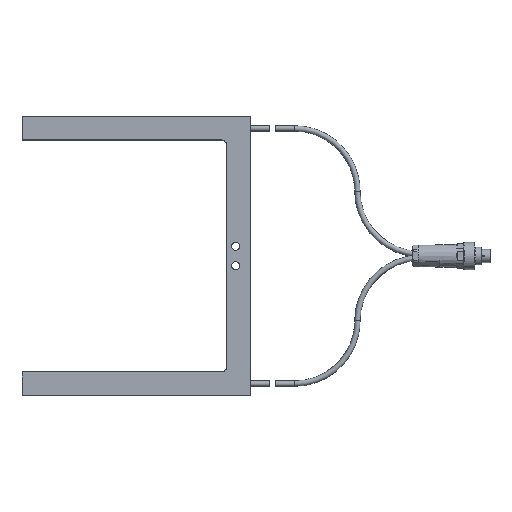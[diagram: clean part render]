
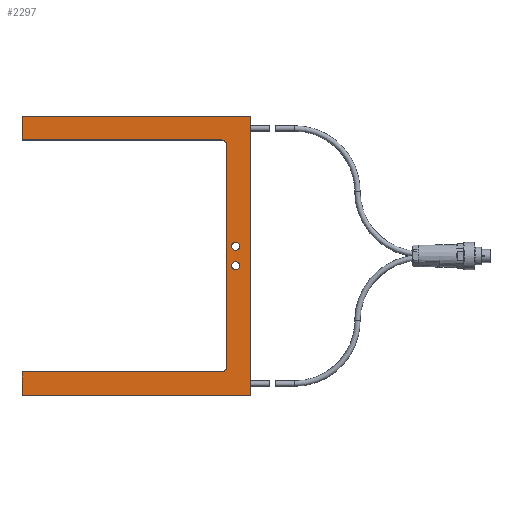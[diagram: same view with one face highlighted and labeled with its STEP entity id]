
A CAD part, top view. The second image highlights one B-rep face of the part: STEP entity #2297.
In plain terms, the highlighted planar face has unit normal (0, 0, 1).
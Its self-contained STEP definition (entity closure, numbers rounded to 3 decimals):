
#116=LINE($,#4063,#204);
#120=LINE($,#4075,#208);
#121=LINE($,#4079,#209);
#125=LINE($,#4087,#213);
#128=LINE($,#4093,#216);
#131=LINE($,#4098,#219);
#133=LINE($,#4102,#221);
#136=LINE($,#4107,#224);
#204=VECTOR($,#3263,114.);
#208=VECTOR($,#3275,103.);
#209=VECTOR($,#3278,118.);
#213=VECTOR($,#3284,144.);
#216=VECTOR($,#3289,103.);
#219=VECTOR($,#3294,12.);
#221=VECTOR($,#3298,12.);
#224=VECTOR($,#3303,118.);
#307=PLANE($,#2610);
#411=FACE_BOUND($,#801,.T.);
#412=FACE_BOUND($,#802,.T.);
#413=FACE_BOUND($,#803,.T.);
#801=EDGE_LOOP($,(#1911));
#802=EDGE_LOOP($,(#1912));
#803=EDGE_LOOP($,(#1913,#1914,#1915,#1916,#1917,#1918,#1919,#1920,#1921,
#1922));
#943=CIRCLE($,#2590,2.05);
#945=CIRCLE($,#2593,2.05);
#948=CIRCLE($,#2597,3.);
#950=CIRCLE($,#2601,3.);
#1123=VERTEX_POINT($,#4040);
#1125=VERTEX_POINT($,#4045);
#1129=VERTEX_POINT($,#4053);
#1130=VERTEX_POINT($,#4055);
#1132=VERTEX_POINT($,#4061);
#1134=VERTEX_POINT($,#4067);
#1136=VERTEX_POINT($,#4073);
#1137=VERTEX_POINT($,#4077);
#1138=VERTEX_POINT($,#4078);
#1141=VERTEX_POINT($,#4086);
#1143=VERTEX_POINT($,#4092);
#1145=VERTEX_POINT($,#4101);
#1369=EDGE_CURVE($,#1123,#1123,#943,.T.);
#1371=EDGE_CURVE($,#1125,#1125,#945,.T.);
#1375=EDGE_CURVE($,#1129,#1130,#948,.T.);
#1379=EDGE_CURVE($,#1132,#1129,#116,.T.);
#1382=EDGE_CURVE($,#1134,#1132,#950,.T.);
#1385=EDGE_CURVE($,#1136,#1134,#120,.T.);
#1386=EDGE_CURVE($,#1137,#1138,#121,.T.);
#1390=EDGE_CURVE($,#1138,#1141,#125,.T.);
#1393=EDGE_CURVE($,#1130,#1143,#128,.T.);
#1396=EDGE_CURVE($,#1143,#1137,#131,.T.);
#1398=EDGE_CURVE($,#1145,#1136,#133,.T.);
#1401=EDGE_CURVE($,#1141,#1145,#136,.T.);
#1911=ORIENTED_EDGE($,*,*,#1371,.T.);
#1912=ORIENTED_EDGE($,*,*,#1369,.T.);
#1913=ORIENTED_EDGE($,*,*,#1398,.F.);
#1914=ORIENTED_EDGE($,*,*,#1401,.F.);
#1915=ORIENTED_EDGE($,*,*,#1390,.F.);
#1916=ORIENTED_EDGE($,*,*,#1386,.F.);
#1917=ORIENTED_EDGE($,*,*,#1396,.F.);
#1918=ORIENTED_EDGE($,*,*,#1393,.F.);
#1919=ORIENTED_EDGE($,*,*,#1375,.F.);
#1920=ORIENTED_EDGE($,*,*,#1379,.F.);
#1921=ORIENTED_EDGE($,*,*,#1382,.F.);
#1922=ORIENTED_EDGE($,*,*,#1385,.F.);
#2297=ADVANCED_FACE($,(#411,#412,#413),#307,.T.);
#2590=AXIS2_PLACEMENT_3D($,#4041,#3241,#3242);
#2593=AXIS2_PLACEMENT_3D($,#4046,#3247,#3248);
#2597=AXIS2_PLACEMENT_3D($,#4056,#3256,#3257);
#2601=AXIS2_PLACEMENT_3D($,#4069,#3269,#3270);
#2610=AXIS2_PLACEMENT_3D($,#4110,#3307,#3308);
#3241=DIRECTION('center_axis',(0.,0.,-1.));
#3242=DIRECTION('ref_axis',(1.,0.,0.));
#3247=DIRECTION('center_axis',(0.,0.,-1.));
#3248=DIRECTION('ref_axis',(1.,0.,0.));
#3256=DIRECTION('center_axis',(0.,0.,1.));
#3257=DIRECTION('ref_axis',(0.707,0.707,0.));
#3263=DIRECTION($,(0.,1.,0.));
#3269=DIRECTION('center_axis',(0.,0.,1.));
#3270=DIRECTION('ref_axis',(0.707,-0.707,0.));
#3275=DIRECTION($,(1.,0.,0.));
#3278=DIRECTION($,(1.,0.,0.));
#3284=DIRECTION($,(0.,-1.,0.));
#3289=DIRECTION($,(-1.,0.,0.));
#3294=DIRECTION($,(0.,1.,0.));
#3298=DIRECTION($,(0.,1.,0.));
#3303=DIRECTION($,(-1.,0.,0.));
#3307=DIRECTION('center_axis',(0.,0.,1.));
#3308=DIRECTION('ref_axis',(1.,0.,0.));
#4040=CARTESIAN_POINT('',(53.55,5.,12.));
#4041=CARTESIAN_POINT('Origin',(51.5,5.,12.));
#4045=CARTESIAN_POINT('',(53.55,-5.,12.));
#4046=CARTESIAN_POINT('Origin',(51.5,-5.,12.));
#4053=CARTESIAN_POINT('',(47.,57.,12.));
#4055=CARTESIAN_POINT('',(44.,60.,12.));
#4056=CARTESIAN_POINT('Origin',(44.,57.,12.));
#4061=CARTESIAN_POINT('',(47.,-57.,12.));
#4063=CARTESIAN_POINT($,(47.,60.,12.));
#4067=CARTESIAN_POINT('',(44.,-60.,12.));
#4069=CARTESIAN_POINT('Origin',(44.,-57.,12.));
#4073=CARTESIAN_POINT('',(-59.,-60.,12.));
#4075=CARTESIAN_POINT($,(47.,-60.,12.));
#4077=CARTESIAN_POINT('',(-59.,72.,12.));
#4078=CARTESIAN_POINT('',(59.,72.,12.));
#4079=CARTESIAN_POINT($,(59.,72.,12.));
#4086=CARTESIAN_POINT('',(59.,-72.,12.));
#4087=CARTESIAN_POINT($,(59.,-72.,12.));
#4092=CARTESIAN_POINT('',(-59.,60.,12.));
#4093=CARTESIAN_POINT($,(-59.,60.,12.));
#4098=CARTESIAN_POINT($,(-59.,72.,12.));
#4101=CARTESIAN_POINT('',(-59.,-72.,12.));
#4102=CARTESIAN_POINT($,(-59.,-60.,12.));
#4107=CARTESIAN_POINT($,(-59.,-72.,12.));
#4110=CARTESIAN_POINT('Origin',(-56.,-66.,12.));
